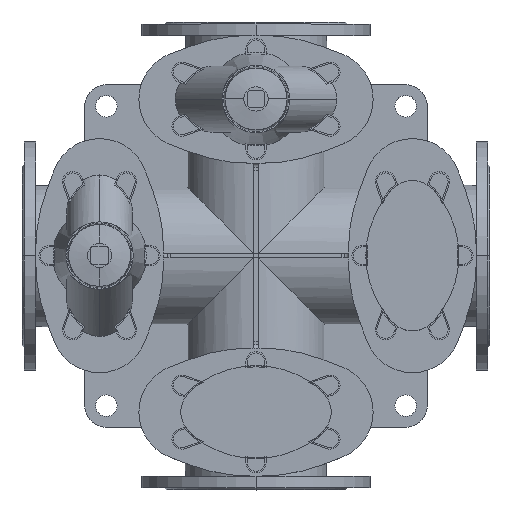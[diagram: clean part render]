
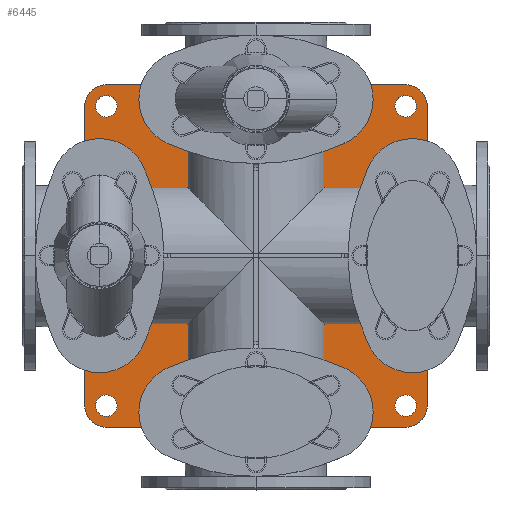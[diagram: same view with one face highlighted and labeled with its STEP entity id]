
A CAD part, top view. The second image highlights one B-rep face of the part: STEP entity #6445.
In plain terms, the highlighted planar face has unit normal (0, 0, 1).
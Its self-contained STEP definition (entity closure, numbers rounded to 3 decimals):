
#6445=ADVANCED_FACE('',(#12428,#12429,#12430,#12431,#12432),#12433,.F.);
#12428=FACE_BOUND('',#19519,.T.);
#12429=FACE_BOUND('',#19520,.T.);
#12430=FACE_BOUND('',#19521,.T.);
#12431=FACE_BOUND('',#19522,.T.);
#12432=FACE_OUTER_BOUND('',#19523,.T.);
#12433=PLANE('',#19524);
#19519=EDGE_LOOP('',(#32511,#32512));
#19520=EDGE_LOOP('',(#32513,#32514));
#19521=EDGE_LOOP('',(#32515,#32516));
#19522=EDGE_LOOP('',(#32517,#32518));
#19523=EDGE_LOOP('',(#32519,#32520,#32521,#32522,#32523,#32524,#32525,#32526));
#19524=AXIS2_PLACEMENT_3D('',#32527,#32528,#32529);
#32511=ORIENTED_EDGE('',*,*,#43043,.T.);
#32512=ORIENTED_EDGE('',*,*,#43044,.T.);
#32513=ORIENTED_EDGE('',*,*,#43045,.T.);
#32514=ORIENTED_EDGE('',*,*,#43046,.T.);
#32515=ORIENTED_EDGE('',*,*,#43047,.T.);
#32516=ORIENTED_EDGE('',*,*,#43048,.T.);
#32517=ORIENTED_EDGE('',*,*,#38606,.T.);
#32518=ORIENTED_EDGE('',*,*,#43049,.T.);
#32519=ORIENTED_EDGE('',*,*,#37966,.F.);
#32520=ORIENTED_EDGE('',*,*,#42452,.F.);
#32521=ORIENTED_EDGE('',*,*,#43050,.F.);
#32522=ORIENTED_EDGE('',*,*,#42133,.F.);
#32523=ORIENTED_EDGE('',*,*,#41246,.F.);
#32524=ORIENTED_EDGE('',*,*,#40306,.F.);
#32525=ORIENTED_EDGE('',*,*,#43051,.F.);
#32526=ORIENTED_EDGE('',*,*,#43052,.F.);
#32527=CARTESIAN_POINT('',(347.5,0.,27.0));
#32528=DIRECTION('',(0.0,0.0,-1.0));
#32529=DIRECTION('',(-1.0,0.0,0.0));
#37966=EDGE_CURVE('',#44534,#44535,#44536,.T.);
#38606=EDGE_CURVE('',#45647,#45652,#45654,.T.);
#40306=EDGE_CURVE('',#48462,#48463,#48464,.T.);
#41246=EDGE_CURVE('',#48463,#49862,#49863,.T.);
#42133=EDGE_CURVE('',#49862,#51106,#51107,.T.);
#42452=EDGE_CURVE('',#51530,#44534,#51531,.T.);
#43043=EDGE_CURVE('',#52255,#52256,#52257,.T.);
#43044=EDGE_CURVE('',#52256,#52255,#52258,.T.);
#43045=EDGE_CURVE('',#52259,#52260,#52261,.T.);
#43046=EDGE_CURVE('',#52260,#52259,#52262,.T.);
#43047=EDGE_CURVE('',#52263,#52264,#52265,.T.);
#43048=EDGE_CURVE('',#52264,#52263,#52266,.T.);
#43049=EDGE_CURVE('',#45652,#45647,#52267,.T.);
#43050=EDGE_CURVE('',#51106,#51530,#52268,.T.);
#43051=EDGE_CURVE('',#52269,#48462,#52270,.T.);
#43052=EDGE_CURVE('',#44535,#52269,#52271,.T.);
#44534=VERTEX_POINT('',#53958);
#44535=VERTEX_POINT('',#53959);
#44536=LINE('',#53960,#53961);
#45647=VERTEX_POINT('',#55392);
#45652=VERTEX_POINT('',#55398);
#45654=CIRCLE('',#55401,16.0);
#48462=VERTEX_POINT('',#59030);
#48463=VERTEX_POINT('',#59031);
#48464=CIRCLE('',#59032,32.0);
#49862=VERTEX_POINT('',#60829);
#49863=LINE('',#60830,#60831);
#51106=VERTEX_POINT('',#62401);
#51107=CIRCLE('',#62402,32.0);
#51530=VERTEX_POINT('',#62937);
#51531=CIRCLE('',#62938,32.0);
#52255=VERTEX_POINT('',#63875);
#52256=VERTEX_POINT('',#63876);
#52257=CIRCLE('',#63877,16.0);
#52258=CIRCLE('',#63878,16.0);
#52259=VERTEX_POINT('',#63879);
#52260=VERTEX_POINT('',#63880);
#52261=CIRCLE('',#63881,16.0);
#52262=CIRCLE('',#63882,16.0);
#52263=VERTEX_POINT('',#63883);
#52264=VERTEX_POINT('',#63884);
#52265=CIRCLE('',#63885,16.0);
#52266=CIRCLE('',#63886,16.0);
#52267=CIRCLE('',#63887,16.0);
#52268=LINE('',#63888,#63889);
#52269=VERTEX_POINT('',#63890);
#52270=LINE('',#63891,#63892);
#52271=CIRCLE('',#63893,32.0);
#53958=CARTESIAN_POINT('',(570.0,-254.5,27.0));
#53959=CARTESIAN_POINT('',(125.0,-254.5,27.0));
#53960=CARTESIAN_POINT('',(570.0,-254.5,27.0));
#53961=VECTOR('',#65595,1.0);
#55392=CARTESIAN_POINT('',(586.0,222.5,27.0));
#55398=CARTESIAN_POINT('',(554.0,222.5,27.0));
#55401=AXIS2_PLACEMENT_3D('',#66467,#66468,#66469);
#59030=CARTESIAN_POINT('',(93.0,222.5,27.0));
#59031=CARTESIAN_POINT('',(125.0,254.5,27.0));
#59032=AXIS2_PLACEMENT_3D('',#68809,#68810,#68811);
#60829=CARTESIAN_POINT('',(570.0,254.5,27.0));
#60830=CARTESIAN_POINT('',(125.0,254.5,27.0));
#60831=VECTOR('',#70102,1.0);
#62401=CARTESIAN_POINT('',(602.0,222.5,27.0));
#62402=AXIS2_PLACEMENT_3D('',#71354,#71355,#71356);
#62937=CARTESIAN_POINT('',(602.0,-222.5,27.0));
#62938=AXIS2_PLACEMENT_3D('',#71814,#71815,#71816);
#63875=CARTESIAN_POINT('',(141.0,222.5,27.0));
#63876=CARTESIAN_POINT('',(109.0,222.5,27.0));
#63877=AXIS2_PLACEMENT_3D('',#72474,#72475,#72476);
#63878=AXIS2_PLACEMENT_3D('',#72477,#72478,#72479);
#63879=CARTESIAN_POINT('',(141.0,-222.5,27.0));
#63880=CARTESIAN_POINT('',(109.0,-222.5,27.0));
#63881=AXIS2_PLACEMENT_3D('',#72480,#72481,#72482);
#63882=AXIS2_PLACEMENT_3D('',#72483,#72484,#72485);
#63883=CARTESIAN_POINT('',(586.0,-222.5,27.0));
#63884=CARTESIAN_POINT('',(554.0,-222.5,27.0));
#63885=AXIS2_PLACEMENT_3D('',#72486,#72487,#72488);
#63886=AXIS2_PLACEMENT_3D('',#72489,#72490,#72491);
#63887=AXIS2_PLACEMENT_3D('',#72492,#72493,#72494);
#63888=CARTESIAN_POINT('',(602.0,222.5,27.0));
#63889=VECTOR('',#72495,1.0);
#63890=CARTESIAN_POINT('',(93.0,-222.5,27.0));
#63891=CARTESIAN_POINT('',(93.0,-222.5,27.0));
#63892=VECTOR('',#72496,1.0);
#63893=AXIS2_PLACEMENT_3D('',#72497,#72498,#72499);
#65595=DIRECTION('',(-1.0,0.0,0.0));
#66467=CARTESIAN_POINT('',(570.0,222.5,27.0));
#66468=DIRECTION('',(0.0,0.0,-1.0));
#66469=DIRECTION('',(1.0,0.0,0.0));
#68809=CARTESIAN_POINT('',(125.0,222.5,27.0));
#68810=DIRECTION('',(0.0,0.0,-1.0));
#68811=DIRECTION('',(-1.0,0.0,0.0));
#70102=DIRECTION('',(1.0,0.0,0.0));
#71354=CARTESIAN_POINT('',(570.0,222.5,27.0));
#71355=DIRECTION('',(0.0,0.0,-1.0));
#71356=DIRECTION('',(-1.0,0.0,0.0));
#71814=CARTESIAN_POINT('',(570.0,-222.5,27.0));
#71815=DIRECTION('',(0.0,0.0,-1.0));
#71816=DIRECTION('',(-1.0,0.0,0.0));
#72474=CARTESIAN_POINT('',(125.0,222.5,27.0));
#72475=DIRECTION('',(0.0,0.0,-1.0));
#72476=DIRECTION('',(1.0,0.0,0.0));
#72477=CARTESIAN_POINT('',(125.0,222.5,27.0));
#72478=DIRECTION('',(0.0,0.0,-1.0));
#72479=DIRECTION('',(1.0,0.0,0.0));
#72480=CARTESIAN_POINT('',(125.0,-222.5,27.0));
#72481=DIRECTION('',(0.0,0.0,-1.0));
#72482=DIRECTION('',(1.0,0.0,0.0));
#72483=CARTESIAN_POINT('',(125.0,-222.5,27.0));
#72484=DIRECTION('',(0.0,0.0,-1.0));
#72485=DIRECTION('',(1.0,0.0,0.0));
#72486=CARTESIAN_POINT('',(570.0,-222.5,27.0));
#72487=DIRECTION('',(0.0,0.0,-1.0));
#72488=DIRECTION('',(1.0,0.0,0.0));
#72489=CARTESIAN_POINT('',(570.0,-222.5,27.0));
#72490=DIRECTION('',(0.0,0.0,-1.0));
#72491=DIRECTION('',(1.0,0.0,0.0));
#72492=CARTESIAN_POINT('',(570.0,222.5,27.0));
#72493=DIRECTION('',(0.0,0.0,-1.0));
#72494=DIRECTION('',(1.0,0.0,0.0));
#72495=DIRECTION('',(0.0,-1.0,0.0));
#72496=DIRECTION('',(0.0,1.0,0.0));
#72497=CARTESIAN_POINT('',(125.0,-222.5,27.0));
#72498=DIRECTION('',(0.0,0.0,-1.0));
#72499=DIRECTION('',(-1.0,0.0,0.0));
